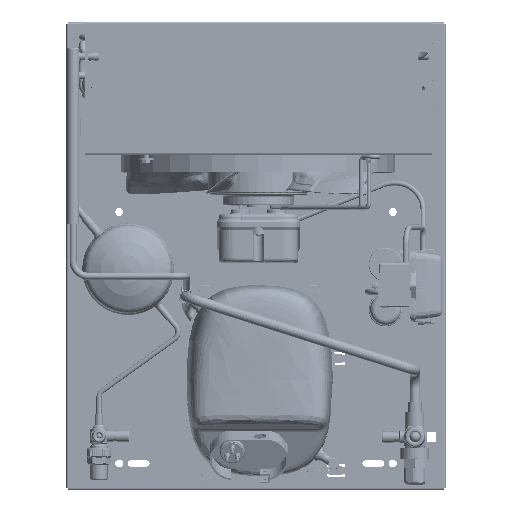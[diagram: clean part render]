
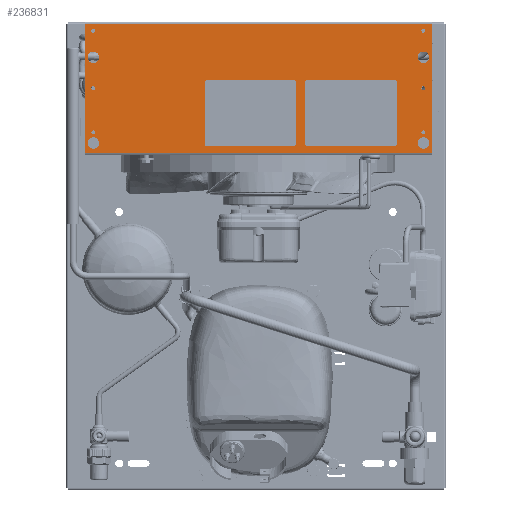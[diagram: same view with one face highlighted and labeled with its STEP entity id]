
A CAD part, top view. The second image highlights one B-rep face of the part: STEP entity #236831.
In plain terms, the highlighted planar face has unit normal (0, 0, 1).
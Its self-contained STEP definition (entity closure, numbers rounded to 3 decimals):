
#65814=LINE('',#311304,#77479);
#65863=LINE('',#311480,#77528);
#65866=LINE('',#311488,#77531);
#65867=LINE('',#311510,#77532);
#77479=VECTOR('',#268475,1000.);
#77528=VECTOR('',#268620,1000.);
#77531=VECTOR('',#268629,1000.);
#77532=VECTOR('',#268652,1000.);
#91761=ORIENTED_EDGE('',*,*,#147473,.F.);
#91762=ORIENTED_EDGE('',*,*,#147474,.F.);
#91763=ORIENTED_EDGE('',*,*,#147475,.F.);
#91764=ORIENTED_EDGE('',*,*,#147476,.F.);
#91765=ORIENTED_EDGE('',*,*,#147477,.F.);
#91766=ORIENTED_EDGE('',*,*,#147478,.F.);
#91767=ORIENTED_EDGE('',*,*,#147479,.F.);
#91768=ORIENTED_EDGE('',*,*,#147480,.F.);
#91769=ORIENTED_EDGE('',*,*,#147481,.F.);
#91770=ORIENTED_EDGE('',*,*,#147482,.F.);
#91771=ORIENTED_EDGE('',*,*,#147468,.T.);
#91772=ORIENTED_EDGE('',*,*,#147483,.F.);
#91773=ORIENTED_EDGE('',*,*,#147379,.F.);
#91774=ORIENTED_EDGE('',*,*,#147472,.T.);
#147379=EDGE_CURVE('',#175766,#175767,#65814,.T.);
#147468=EDGE_CURVE('',#175846,#175845,#65863,.T.);
#147472=EDGE_CURVE('',#175766,#175846,#65866,.T.);
#147473=EDGE_CURVE('',#175848,#175848,#194453,.T.);
#147474=EDGE_CURVE('',#175849,#175849,#194454,.T.);
#147475=EDGE_CURVE('',#175850,#175850,#194455,.T.);
#147476=EDGE_CURVE('',#175851,#175851,#194456,.T.);
#147477=EDGE_CURVE('',#175852,#175852,#194457,.T.);
#147478=EDGE_CURVE('',#175853,#175853,#194458,.T.);
#147479=EDGE_CURVE('',#175854,#175854,#194459,.T.);
#147480=EDGE_CURVE('',#175855,#175855,#194460,.T.);
#147481=EDGE_CURVE('',#175856,#175856,#194461,.T.);
#147482=EDGE_CURVE('',#175857,#175857,#194462,.T.);
#147483=EDGE_CURVE('',#175767,#175845,#65867,.T.);
#175766=VERTEX_POINT('',#311303);
#175767=VERTEX_POINT('',#311305);
#175845=VERTEX_POINT('',#311479);
#175846=VERTEX_POINT('',#311481);
#175848=VERTEX_POINT('',#311491);
#175849=VERTEX_POINT('',#311493);
#175850=VERTEX_POINT('',#311495);
#175851=VERTEX_POINT('',#311497);
#175852=VERTEX_POINT('',#311499);
#175853=VERTEX_POINT('',#311501);
#175854=VERTEX_POINT('',#311503);
#175855=VERTEX_POINT('',#311505);
#175856=VERTEX_POINT('',#311507);
#175857=VERTEX_POINT('',#311509);
#194453=CIRCLE('',#250241,6.5);
#194454=CIRCLE('',#250242,6.5);
#194455=CIRCLE('',#250243,6.5);
#194456=CIRCLE('',#250244,6.5);
#194457=CIRCLE('',#250245,2.25);
#194458=CIRCLE('',#250246,2.25);
#194459=CIRCLE('',#250247,2.25);
#194460=CIRCLE('',#250248,2.25);
#194461=CIRCLE('',#250249,2.25);
#194462=CIRCLE('',#250250,2.25);
#201343=EDGE_LOOP('',(#91761));
#201344=EDGE_LOOP('',(#91762));
#201345=EDGE_LOOP('',(#91763));
#201346=EDGE_LOOP('',(#91764));
#201347=EDGE_LOOP('',(#91765));
#201348=EDGE_LOOP('',(#91766));
#201349=EDGE_LOOP('',(#91767));
#201350=EDGE_LOOP('',(#91768));
#201351=EDGE_LOOP('',(#91769));
#201352=EDGE_LOOP('',(#91770));
#201353=EDGE_LOOP('',(#91771,#91772,#91773,#91774));
#216484=FACE_BOUND('',#201343,.T.);
#216485=FACE_BOUND('',#201344,.T.);
#216486=FACE_BOUND('',#201345,.T.);
#216487=FACE_BOUND('',#201346,.T.);
#216488=FACE_BOUND('',#201347,.T.);
#216489=FACE_BOUND('',#201348,.T.);
#216490=FACE_BOUND('',#201349,.T.);
#216491=FACE_BOUND('',#201350,.T.);
#216492=FACE_BOUND('',#201351,.T.);
#216493=FACE_BOUND('',#201352,.T.);
#216494=FACE_BOUND('',#201353,.T.);
#229931=PLANE('',#250240);
#236831=ADVANCED_FACE('',(#216484,#216485,#216486,#216487,#216488,#216489,
#216490,#216491,#216492,#216493,#216494),#229931,.F.);
#250240=AXIS2_PLACEMENT_3D('',#311489,#268630,#268631);
#250241=AXIS2_PLACEMENT_3D('',#311490,#268632,#268633);
#250242=AXIS2_PLACEMENT_3D('',#311492,#268634,#268635);
#250243=AXIS2_PLACEMENT_3D('',#311494,#268636,#268637);
#250244=AXIS2_PLACEMENT_3D('',#311496,#268638,#268639);
#250245=AXIS2_PLACEMENT_3D('',#311498,#268640,#268641);
#250246=AXIS2_PLACEMENT_3D('',#311500,#268642,#268643);
#250247=AXIS2_PLACEMENT_3D('',#311502,#268644,#268645);
#250248=AXIS2_PLACEMENT_3D('',#311504,#268646,#268647);
#250249=AXIS2_PLACEMENT_3D('',#311506,#268648,#268649);
#250250=AXIS2_PLACEMENT_3D('',#311508,#268650,#268651);
#268475=DIRECTION('',(0.,1.,0.));
#268620=DIRECTION('',(0.,1.,0.));
#268629=DIRECTION('',(1.,0.,0.));
#268630=DIRECTION('',(0.,0.,-1.));
#268631=DIRECTION('',(-1.,0.,0.));
#268632=DIRECTION('',(0.,0.,1.));
#268633=DIRECTION('',(-1.,0.,0.));
#268634=DIRECTION('',(0.,0.,1.));
#268635=DIRECTION('',(-1.,0.,0.));
#268636=DIRECTION('',(0.,0.,1.));
#268637=DIRECTION('',(-1.,0.,0.));
#268638=DIRECTION('',(0.,0.,1.));
#268639=DIRECTION('',(-1.,0.,0.));
#268640=DIRECTION('',(0.,0.,1.));
#268641=DIRECTION('',(-1.,0.,0.));
#268642=DIRECTION('',(0.,0.,1.));
#268643=DIRECTION('',(-1.,0.,0.));
#268644=DIRECTION('',(0.,0.,1.));
#268645=DIRECTION('',(-1.,0.,0.));
#268646=DIRECTION('',(0.,0.,1.));
#268647=DIRECTION('',(-1.,0.,0.));
#268648=DIRECTION('',(0.,0.,1.));
#268649=DIRECTION('',(-1.,0.,0.));
#268650=DIRECTION('',(0.,0.,1.));
#268651=DIRECTION('',(-1.,0.,0.));
#268652=DIRECTION('',(1.,0.,0.));
#311303=CARTESIAN_POINT('',(-197.,-73.1,0.));
#311304=CARTESIAN_POINT('',(-197.,-75.1,0.));
#311305=CARTESIAN_POINT('',(-197.,73.1,0.));
#311479=CARTESIAN_POINT('',(197.,73.1,0.));
#311480=CARTESIAN_POINT('',(197.,-75.1,0.));
#311481=CARTESIAN_POINT('',(197.,-73.1,0.));
#311488=CARTESIAN_POINT('',(-197.,-73.1,0.));
#311489=CARTESIAN_POINT('',(-197.,-75.1,0.));
#311490=CARTESIAN_POINT('',(-187.,-35.1,0.));
#311491=CARTESIAN_POINT('',(-193.5,-35.1,0.));
#311492=CARTESIAN_POINT('',(187.,-35.1,0.));
#311493=CARTESIAN_POINT('',(180.5,-35.1,0.));
#311494=CARTESIAN_POINT('',(187.,62.1,0.));
#311495=CARTESIAN_POINT('',(180.5,62.1,0.));
#311496=CARTESIAN_POINT('',(-187.,62.1,0.));
#311497=CARTESIAN_POINT('',(-193.5,62.1,0.));
#311498=CARTESIAN_POINT('',(-187.,-65.1,0.));
#311499=CARTESIAN_POINT('',(-189.25,-65.1,0.));
#311500=CARTESIAN_POINT('',(187.,-65.1,0.));
#311501=CARTESIAN_POINT('',(184.75,-65.1,0.));
#311502=CARTESIAN_POINT('',(187.,-0.1,0.));
#311503=CARTESIAN_POINT('',(184.75,-0.1,0.));
#311504=CARTESIAN_POINT('',(-187.,-0.1,0.));
#311505=CARTESIAN_POINT('',(-189.25,-0.1,0.));
#311506=CARTESIAN_POINT('',(-187.,49.9,0.));
#311507=CARTESIAN_POINT('',(-189.25,49.9,0.));
#311508=CARTESIAN_POINT('',(187.,49.9,0.));
#311509=CARTESIAN_POINT('',(184.75,49.9,0.));
#311510=CARTESIAN_POINT('',(-197.,73.1,0.));
